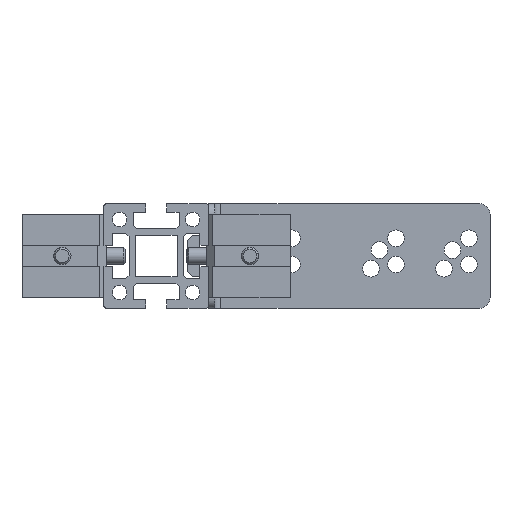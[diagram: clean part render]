
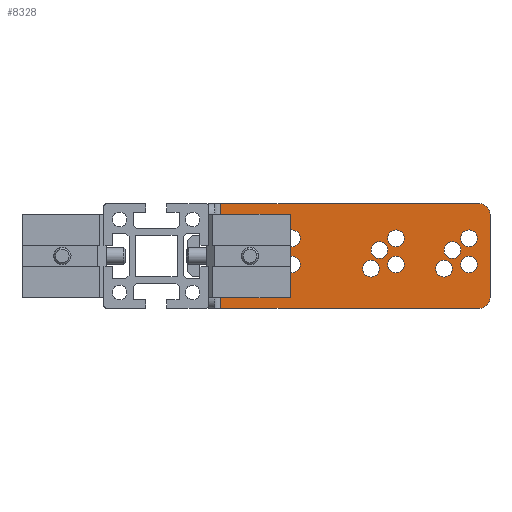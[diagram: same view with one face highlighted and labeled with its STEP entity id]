
A CAD part, left-side view. The second image highlights one B-rep face of the part: STEP entity #8328.
In plain terms, the highlighted planar face has unit normal (-1, 0, 0).
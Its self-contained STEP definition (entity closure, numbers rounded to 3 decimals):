
#667=LINE('',#13249,#1319);
#673=LINE('',#13289,#1325);
#675=LINE('',#13330,#1327);
#677=LINE('',#13333,#1329);
#1319=VECTOR('',#10696,40.);
#1325=VECTOR('',#10736,124.);
#1327=VECTOR('',#10790,124.);
#1329=VECTOR('',#10794,50.);
#1700=PLANE('',#9007);
#2042=FACE_BOUND('',#3044,.T.);
#2043=FACE_BOUND('',#3045,.T.);
#2044=FACE_BOUND('',#3046,.T.);
#2045=FACE_BOUND('',#3047,.T.);
#2046=FACE_BOUND('',#3048,.T.);
#2047=FACE_BOUND('',#3049,.T.);
#2048=FACE_BOUND('',#3050,.T.);
#2049=FACE_BOUND('',#3051,.T.);
#2050=FACE_BOUND('',#3052,.T.);
#2051=FACE_BOUND('',#3053,.T.);
#2052=FACE_BOUND('',#3054,.T.);
#2053=FACE_BOUND('',#3055,.T.);
#2451=FACE_OUTER_BOUND('',#3043,.T.);
#3043=EDGE_LOOP('',(#6912,#6913,#6914,#6915,#6916,#6917));
#3044=EDGE_LOOP('',(#6918));
#3045=EDGE_LOOP('',(#6919));
#3046=EDGE_LOOP('',(#6920));
#3047=EDGE_LOOP('',(#6921));
#3048=EDGE_LOOP('',(#6922));
#3049=EDGE_LOOP('',(#6923));
#3050=EDGE_LOOP('',(#6924));
#3051=EDGE_LOOP('',(#6925));
#3052=EDGE_LOOP('',(#6926));
#3053=EDGE_LOOP('',(#6927));
#3054=EDGE_LOOP('',(#6928));
#3055=EDGE_LOOP('',(#6929));
#3453=CIRCLE('',#8957,5.);
#3467=CIRCLE('',#8974,5.);
#3468=CIRCLE('',#8978,4.);
#3469=CIRCLE('',#8980,4.);
#3470=CIRCLE('',#8982,4.);
#3471=CIRCLE('',#8984,4.);
#3472=CIRCLE('',#8986,4.);
#3473=CIRCLE('',#8988,4.);
#3474=CIRCLE('',#8990,4.);
#3475=CIRCLE('',#8992,4.);
#3476=CIRCLE('',#8994,4.);
#3477=CIRCLE('',#8996,4.);
#3478=CIRCLE('',#8998,4.);
#3479=CIRCLE('',#9000,4.);
#4104=VERTEX_POINT('',#13239);
#4105=VERTEX_POINT('',#13241);
#4107=VERTEX_POINT('',#13247);
#4123=VERTEX_POINT('',#13283);
#4124=VERTEX_POINT('',#13287);
#4125=VERTEX_POINT('',#13293);
#4126=VERTEX_POINT('',#13296);
#4127=VERTEX_POINT('',#13299);
#4128=VERTEX_POINT('',#13302);
#4129=VERTEX_POINT('',#13305);
#4130=VERTEX_POINT('',#13308);
#4131=VERTEX_POINT('',#13311);
#4132=VERTEX_POINT('',#13314);
#4133=VERTEX_POINT('',#13317);
#4134=VERTEX_POINT('',#13320);
#4135=VERTEX_POINT('',#13323);
#4136=VERTEX_POINT('',#13326);
#4137=VERTEX_POINT('',#13329);
#5075=EDGE_CURVE('',#4104,#4105,#3453,.T.);
#5079=EDGE_CURVE('',#4104,#4107,#667,.T.);
#5097=EDGE_CURVE('',#4123,#4107,#3467,.T.);
#5099=EDGE_CURVE('',#4124,#4123,#673,.T.);
#5101=EDGE_CURVE('',#4125,#4125,#3468,.T.);
#5102=EDGE_CURVE('',#4126,#4126,#3469,.T.);
#5103=EDGE_CURVE('',#4127,#4127,#3470,.T.);
#5104=EDGE_CURVE('',#4128,#4128,#3471,.T.);
#5105=EDGE_CURVE('',#4129,#4129,#3472,.T.);
#5106=EDGE_CURVE('',#4130,#4130,#3473,.T.);
#5107=EDGE_CURVE('',#4131,#4131,#3474,.T.);
#5108=EDGE_CURVE('',#4132,#4132,#3475,.T.);
#5109=EDGE_CURVE('',#4133,#4133,#3476,.T.);
#5110=EDGE_CURVE('',#4134,#4134,#3477,.T.);
#5111=EDGE_CURVE('',#4135,#4135,#3478,.T.);
#5112=EDGE_CURVE('',#4136,#4136,#3479,.T.);
#5113=EDGE_CURVE('',#4137,#4105,#675,.T.);
#5115=EDGE_CURVE('',#4124,#4137,#677,.T.);
#6912=ORIENTED_EDGE('',*,*,#5075,.F.);
#6913=ORIENTED_EDGE('',*,*,#5079,.T.);
#6914=ORIENTED_EDGE('',*,*,#5097,.F.);
#6915=ORIENTED_EDGE('',*,*,#5099,.F.);
#6916=ORIENTED_EDGE('',*,*,#5115,.T.);
#6917=ORIENTED_EDGE('',*,*,#5113,.T.);
#6918=ORIENTED_EDGE('',*,*,#5101,.T.);
#6919=ORIENTED_EDGE('',*,*,#5102,.T.);
#6920=ORIENTED_EDGE('',*,*,#5103,.T.);
#6921=ORIENTED_EDGE('',*,*,#5104,.T.);
#6922=ORIENTED_EDGE('',*,*,#5105,.T.);
#6923=ORIENTED_EDGE('',*,*,#5106,.T.);
#6924=ORIENTED_EDGE('',*,*,#5107,.T.);
#6925=ORIENTED_EDGE('',*,*,#5108,.T.);
#6926=ORIENTED_EDGE('',*,*,#5109,.T.);
#6927=ORIENTED_EDGE('',*,*,#5110,.T.);
#6928=ORIENTED_EDGE('',*,*,#5111,.T.);
#6929=ORIENTED_EDGE('',*,*,#5112,.T.);
#8328=ADVANCED_FACE('',(#2451,#2042,#2043,#2044,#2045,#2046,#2047,#2048,
#2049,#2050,#2051,#2052,#2053),#1700,.T.);
#8957=AXIS2_PLACEMENT_3D('',#13242,#10689,#10690);
#8974=AXIS2_PLACEMENT_3D('',#13285,#10731,#10732);
#8978=AXIS2_PLACEMENT_3D('',#13294,#10742,#10743);
#8980=AXIS2_PLACEMENT_3D('',#13297,#10746,#10747);
#8982=AXIS2_PLACEMENT_3D('',#13300,#10750,#10751);
#8984=AXIS2_PLACEMENT_3D('',#13303,#10754,#10755);
#8986=AXIS2_PLACEMENT_3D('',#13306,#10758,#10759);
#8988=AXIS2_PLACEMENT_3D('',#13309,#10762,#10763);
#8990=AXIS2_PLACEMENT_3D('',#13312,#10766,#10767);
#8992=AXIS2_PLACEMENT_3D('',#13315,#10770,#10771);
#8994=AXIS2_PLACEMENT_3D('',#13318,#10774,#10775);
#8996=AXIS2_PLACEMENT_3D('',#13321,#10778,#10779);
#8998=AXIS2_PLACEMENT_3D('',#13324,#10782,#10783);
#9000=AXIS2_PLACEMENT_3D('',#13327,#10786,#10787);
#9007=AXIS2_PLACEMENT_3D('',#13339,#10804,#10805);
#10689=DIRECTION('center_axis',(1.,0.,0.));
#10690=DIRECTION('ref_axis',(0.,-0.707,-0.707));
#10696=DIRECTION('',(0.,0.,1.));
#10731=DIRECTION('center_axis',(1.,0.,0.));
#10732=DIRECTION('ref_axis',(0.,-0.707,0.707));
#10736=DIRECTION('',(0.,-1.,0.));
#10742=DIRECTION('center_axis',(1.,0.,0.));
#10743=DIRECTION('ref_axis',(0.,-1.,0.));
#10746=DIRECTION('center_axis',(1.,0.,0.));
#10747=DIRECTION('ref_axis',(0.,-1.,0.));
#10750=DIRECTION('center_axis',(1.,0.,0.));
#10751=DIRECTION('ref_axis',(0.,-1.,0.));
#10754=DIRECTION('center_axis',(1.,0.,0.));
#10755=DIRECTION('ref_axis',(0.,-1.,0.));
#10758=DIRECTION('center_axis',(1.,0.,0.));
#10759=DIRECTION('ref_axis',(0.,-1.,0.));
#10762=DIRECTION('center_axis',(1.,0.,0.));
#10763=DIRECTION('ref_axis',(0.,-1.,0.));
#10766=DIRECTION('center_axis',(1.,0.,0.));
#10767=DIRECTION('ref_axis',(0.,-1.,0.));
#10770=DIRECTION('center_axis',(1.,0.,0.));
#10771=DIRECTION('ref_axis',(0.,-1.,0.));
#10774=DIRECTION('center_axis',(1.,0.,0.));
#10775=DIRECTION('ref_axis',(0.,-1.,0.));
#10778=DIRECTION('center_axis',(1.,0.,0.));
#10779=DIRECTION('ref_axis',(0.,-1.,0.));
#10782=DIRECTION('center_axis',(1.,0.,0.));
#10783=DIRECTION('ref_axis',(0.,-1.,0.));
#10786=DIRECTION('center_axis',(1.,0.,0.));
#10787=DIRECTION('ref_axis',(0.,-1.,0.));
#10790=DIRECTION('',(0.,-1.,0.));
#10794=DIRECTION('',(0.,0.,-1.));
#10804=DIRECTION('center_axis',(-1.,0.,0.));
#10805=DIRECTION('ref_axis',(0.,0.,-1.));
#13239=CARTESIAN_POINT('',(-23.,-64.25,-20.));
#13241=CARTESIAN_POINT('',(-23.,-59.25,-25.));
#13242=CARTESIAN_POINT('Origin',(-23.,-59.25,-20.));
#13247=CARTESIAN_POINT('',(-23.,-64.25,20.));
#13249=CARTESIAN_POINT('',(-23.,-64.25,-25.));
#13283=CARTESIAN_POINT('',(-23.,-59.25,25.));
#13285=CARTESIAN_POINT('Origin',(-23.,-59.25,20.));
#13287=CARTESIAN_POINT('',(-23.,64.75,25.));
#13289=CARTESIAN_POINT('',(-23.,120.536,25.));
#13293=CARTESIAN_POINT('',(-23.,-46.25,-6.1));
#13294=CARTESIAN_POINT('Origin',(-23.,-42.25,-6.1));
#13296=CARTESIAN_POINT('',(-23.,-58.25,-4.1));
#13297=CARTESIAN_POINT('Origin',(-23.,-54.25,-4.1));
#13299=CARTESIAN_POINT('',(-23.,-50.25,2.8));
#13300=CARTESIAN_POINT('Origin',(-23.,-46.25,2.8));
#13302=CARTESIAN_POINT('',(-23.,-58.25,8.5));
#13303=CARTESIAN_POINT('Origin',(-23.,-54.25,8.5));
#13305=CARTESIAN_POINT('',(-23.,38.75,-6.1));
#13306=CARTESIAN_POINT('Origin',(-23.,42.75,-6.1));
#13308=CARTESIAN_POINT('',(-23.,26.75,-4.1));
#13309=CARTESIAN_POINT('Origin',(-23.,30.75,-4.1));
#13311=CARTESIAN_POINT('',(-23.,34.75,2.8));
#13312=CARTESIAN_POINT('Origin',(-23.,38.75,2.8));
#13314=CARTESIAN_POINT('',(-23.,26.75,8.5));
#13315=CARTESIAN_POINT('Origin',(-23.,30.75,8.5));
#13317=CARTESIAN_POINT('',(-23.,-11.25,-6.1));
#13318=CARTESIAN_POINT('Origin',(-23.,-7.25,-6.1));
#13320=CARTESIAN_POINT('',(-23.,-23.25,-4.1));
#13321=CARTESIAN_POINT('Origin',(-23.,-19.25,-4.1));
#13323=CARTESIAN_POINT('',(-23.,-15.25,2.8));
#13324=CARTESIAN_POINT('Origin',(-23.,-11.25,2.8));
#13326=CARTESIAN_POINT('',(-23.,-23.25,8.5));
#13327=CARTESIAN_POINT('Origin',(-23.,-19.25,8.5));
#13329=CARTESIAN_POINT('',(-23.,64.75,-25.));
#13330=CARTESIAN_POINT('',(-23.,120.536,-25.));
#13333=CARTESIAN_POINT('',(-23.,64.75,0.));
#13339=CARTESIAN_POINT('Origin',(-23.,28.143,0.));
